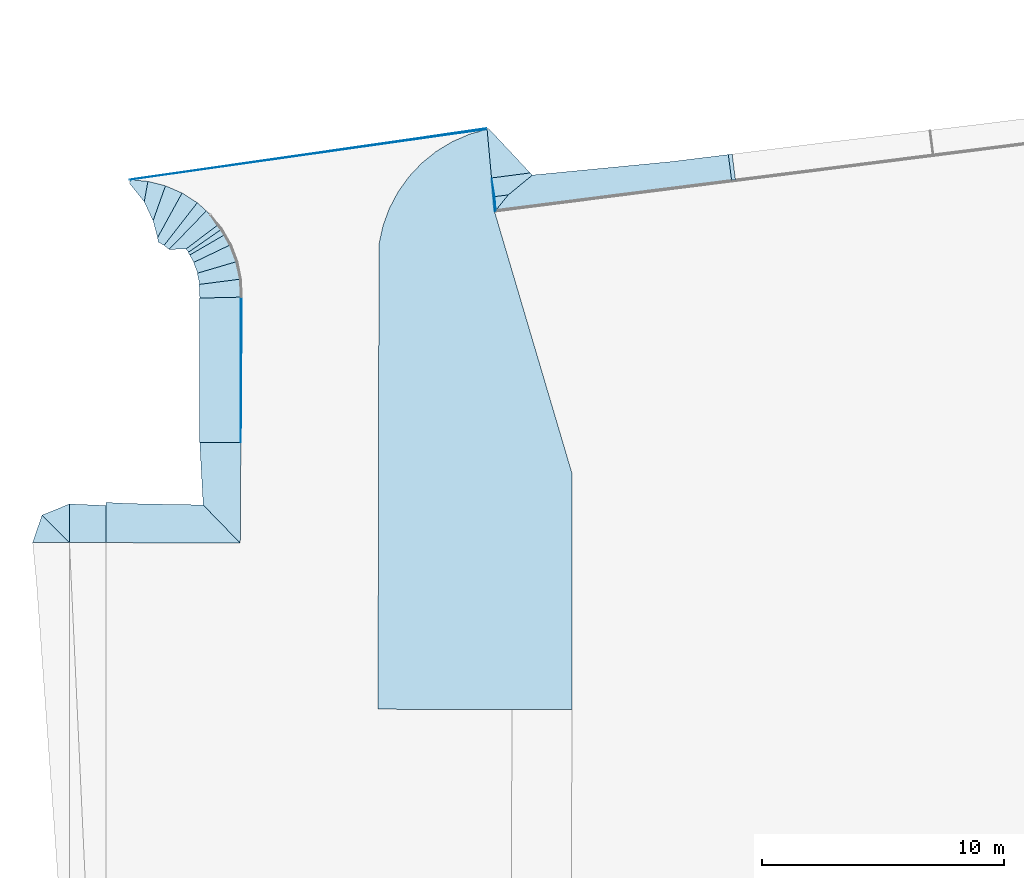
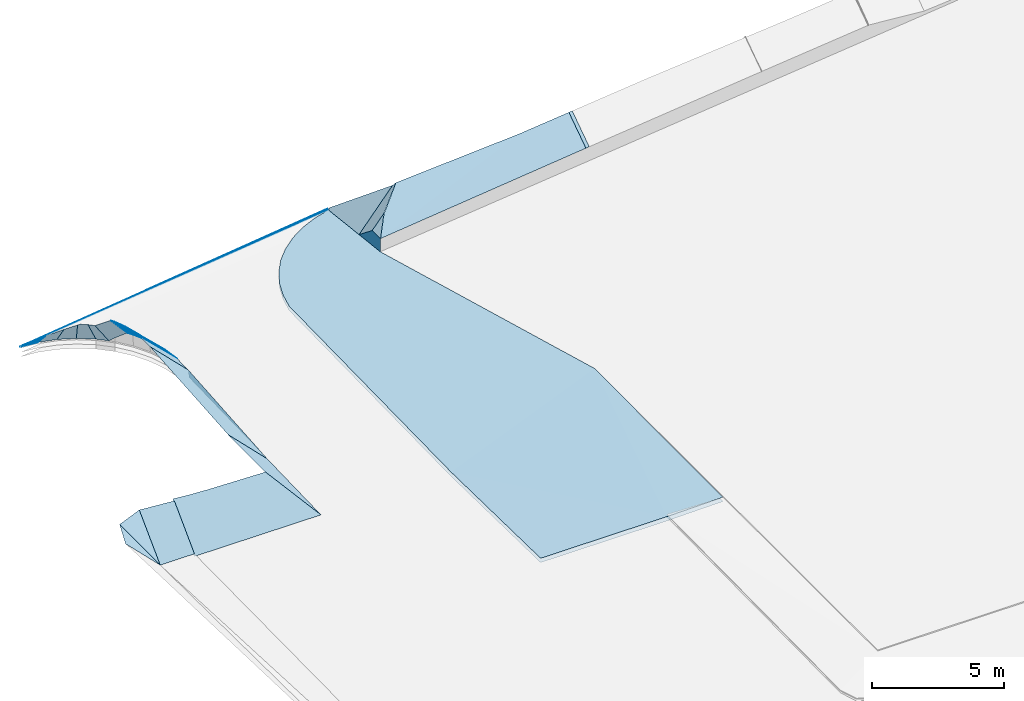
# One storey, part 4 of 14: 28 slabs.
"""IFC2X3 building model written with IfcOpenShell, lengths in metres."""

from ifc_helpers import new_model, si_unit, origin, origin_with_axes, place, context, subcontext, project, spatial, faceted_brep, element, save


model = new_model("IFC2X3")

# Units and contexts
context_of_model = context(None, 3, world=origin_with_axes())
sub_context = subcontext(context_of_model, None, None, "MODEL_VIEW")
ifc_project = project(units=[si_unit("LENGTHUNIT", "METRE"), si_unit("AREAUNIT", "SQUARE_METRE"), si_unit("VOLUMEUNIT", "CUBIC_METRE"), si_unit("PLANEANGLEUNIT", "RADIAN"), si_unit("MASSUNIT", "GRAM", prefix="KILO")])

# Site, building, storey
site_placement = place(None, origin_with_axes())
site = spatial("IfcSite", under=ifc_project, at=site_placement, Name="Site.1", CompositionType="ELEMENT")
building_placement = place(site_placement, origin())
building = spatial("IfcBuilding", under=site, at=building_placement, Name="Building.1", CompositionType="ELEMENT")
storey_placement = place(building_placement, origin())
storey = spatial("IfcBuildingStorey", under=building, at=storey_placement, Name="VRD", CompositionType="ELEMENT")

# Slabs
slab_1_placement = place(storey_placement, origin())
element("IfcSlab", 1, at=slab_1_placement, inside=storey, Name="PJ FINI n°29", PredefinedType="USERDEFINED", context=sub_context, shape_type="Brep", body=[
    faceted_brep([(-6.239175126, 29.71417276, 0.555202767), (-4.730061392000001, 31.165817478, 1.739085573), (1.013974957, 31.72217235, 1.661377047), (-5.726371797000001, 30.346971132, 1.120562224), (3.486191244, 30.9505954, 0.593329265), (3.351568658, 32.01097818, 1.662222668), (3.351568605, 32.010978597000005, 1.662223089)], [[[0, 1, 2]], [[0, 3, 1]], [[4, 0, 2]], [[2, 5, 4]], [[6, 5, 2]]]),
])
slab_2_placement = place(storey_placement, origin())
element("IfcSlab", 2, at=slab_2_placement, inside=storey, Name="PJ FINI n°8 (Terre Végétale)", PredefinedType="USERDEFINED", context=sub_context, shape_type="Brep", body=[
    faceted_brep([(-9.299906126, 31.655909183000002, -0.032359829), (-6.289270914, 29.651859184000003, 0.0), (-9.826892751, 31.095802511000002, -0.035887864), (-9.299906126, 31.655909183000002, -0.232359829), (-6.289270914, 29.651859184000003, -0.2), (-9.826892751, 31.095802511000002, -0.235887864), (-5.572275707, 9.122153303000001, -0.1), (-3.104534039, 18.884809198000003, 0.0), (-3.104534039, 9.114062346, -0.05), (-5.572275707, 9.122153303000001, -0.3), (-3.104534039, 18.884809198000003, -0.2), (-3.104534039, 9.114062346, -0.25), (-11.059491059, 28.315552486, -0.05), (-11.084177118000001, 15.972522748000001, -0.25), (-11.059491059, 28.315552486, -0.25), (-11.084177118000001, 15.972522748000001, -0.45), (-10.273664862, 30.469839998, -0.039415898), (-10.273664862, 30.469839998, -0.239415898), (-10.895627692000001, 29.066939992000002, -0.046471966), (-10.632085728, 29.789421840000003, -0.042943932), (-10.895627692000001, 29.066939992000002, -0.246471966), (-10.632085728, 29.789421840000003, -0.242943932), (-6.599849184, 33.055473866, -0.218247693), (-6.599849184, 33.055473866, -0.018247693), (-7.339867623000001, 32.846172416, -0.021775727), (-7.339867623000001, 32.846172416, -0.221775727), (-8.702302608, 32.139959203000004, -0.028831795), (-8.04496591, 32.539136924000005, -0.025303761), (-8.702302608, 32.139959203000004, -0.228831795), (-8.04496591, 32.539136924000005, -0.225303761), (-11.097854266, 9.133948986, -0.1), (-11.097854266, 9.133948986, -0.3)], [[[0, 1, 2]], [[3, 4, 5]], [[6, 7, 8]], [[9, 10, 11]], [[12, 7, 13]], [[14, 10, 15]], [[1, 16, 2]], [[4, 17, 5]], [[18, 19, 1]], [[20, 21, 4]], [[6, 13, 7]], [[9, 15, 10]], [[1, 4, 22, 23]], [[23, 1, 24]], [[22, 4, 25]], [[1, 26, 27]], [[4, 28, 29]], [[6, 30, 13]], [[9, 31, 15]], [[24, 1, 27]], [[25, 4, 29]], [[18, 1, 12]], [[20, 4, 14]], [[7, 12, 1]], [[10, 14, 4]], [[1, 19, 16]], [[4, 21, 17]], [[26, 1, 0]], [[28, 4, 3]]], orient=[[True], [False], [True], [False], [True], [False], [True], [False], [True], [False], [True], [False], [True], [True], [False], [True], [False], [True], [False], [True], [False], [True], [False], [True], [False], [True], [False], [True], [False]]),
])
slab_3_placement = place(storey_placement, origin())
element("IfcSlab", 3, at=slab_3_placement, inside=storey, Name="PJ FINI n°8", PredefinedType="USERDEFINED", context=sub_context, shape_type="Brep", body=[
    faceted_brep([(-9.299906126, 31.655909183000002, -0.032359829), (-6.289270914, 29.651859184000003, 0.0), (-9.826892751, 31.095802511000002, -0.035887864), (-5.572275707, 9.122153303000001, -0.1), (-3.104534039, 18.884809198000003, 0.0), (-3.104534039, 9.114062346, -0.05), (-11.059491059, 28.315552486, -0.05), (-11.084177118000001, 15.972522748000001, -0.25), (-10.273664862, 30.469839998, -0.039415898), (-10.895627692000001, 29.066939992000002, -0.046471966), (-10.632085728, 29.789421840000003, -0.042943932), (-6.599849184, 33.055473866, -0.018247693), (-7.339867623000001, 32.846172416, -0.021775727), (-8.702302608, 32.139959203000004, -0.028831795), (-8.04496591, 32.539136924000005, -0.025303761), (-11.097854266, 9.133948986, -0.1)], [[[0, 1, 2]], [[3, 4, 5]], [[6, 4, 7]], [[1, 8, 2]], [[9, 10, 1]], [[3, 7, 4]], [[11, 1, 12]], [[1, 13, 14]], [[3, 15, 7]], [[12, 1, 14]], [[9, 1, 6]], [[4, 6, 1]], [[1, 10, 8]], [[13, 1, 0]]]),
])
slab_4_placement = place(storey_placement, origin())
element("IfcSlab", 4, at=slab_4_placement, inside=storey, Name="PJ FINI n°12", PredefinedType="USERDEFINED", context=sub_context, shape_type="Brep", body=[
    faceted_brep([(-17.201949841, 28.282326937, 0.489823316), (-18.690035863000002, 27.568239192, 2.124079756), (-17.442758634, 28.695841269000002, 0.52487026), (-18.867500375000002, 27.865189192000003, 2.173319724)], [[[0, 1, 2]], [[1, 3, 2]]]),
])
slab_5_placement = place(storey_placement, origin())
element("IfcSlab", 5, at=slab_5_placement, inside=storey, Name="PJ FINI n°14", PredefinedType="USERDEFINED", context=sub_context, shape_type="Brep", body=[
    faceted_brep([(-18.452012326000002, 20.144525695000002, 1.530174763), (-18.309256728, 17.558672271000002, 1.319191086), (-18.452013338, 20.144525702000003, 1.530175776), (-16.753651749, 20.133170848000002, -0.168223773), (-16.781392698, 15.983917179, -0.250001), (-18.309256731, 17.558672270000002, 1.319191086)], [[[0, 1, 2]], [[3, 1, 0]], [[4, 5, 1]], [[4, 1, 3]]]),
])
slab_6_placement = place(storey_placement, origin())
element("IfcSlab", 6, at=slab_6_placement, inside=storey, Name="PJ FINI n°109", PredefinedType="USERDEFINED", context=sub_context, shape_type="Brep", body=[
    faceted_brep([(-17.719913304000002, 29.097642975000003, 0.564501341), (-19.02017323, 28.114033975, 2.197928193), (-18.000904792, 29.502155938, 0.20435422), (-19.713567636, 28.101101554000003, 2.213300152), (-18.177652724, 29.690961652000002, 0.003255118), (-18.010362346, 29.516132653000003, 0.189957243)], [[[0, 1, 2]], [[3, 4, 1]], [[5, 2, 4]], [[1, 4, 2]]]),
])
slab_7_placement = place(storey_placement, origin())
element("IfcSlab", 7, at=slab_7_placement, inside=storey, Name="PJ FINI n°22", PredefinedType="USERDEFINED", context=sub_context, shape_type="Brep", body=[
    faceted_brep([(-6.599849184, 33.055473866, -0.018248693), (-21.330737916, 30.977234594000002, 0.056122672), (-6.605372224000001, 33.094505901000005, 0.021172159), (-21.329879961, 30.971171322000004, 0.049999)], [[[0, 1, 2]], [[0, 3, 1]]]),
])
slab_8_placement = place(storey_placement, origin())
element("IfcSlab", 8, at=slab_8_placement, inside=storey, Name="PJ FINI n°23", PredefinedType="USERDEFINED", context=sub_context, shape_type="Brep", body=[
    faceted_brep([(-17.442758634, 28.695841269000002, 0.52487026), (-18.913888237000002, 27.985249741, 2.163357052), (-17.572974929, 28.918931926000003, 0.546382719), (-18.867500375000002, 27.865189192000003, 2.173223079), (-18.867582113, 27.865141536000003, 2.173317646), (-18.930963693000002, 27.973360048, 2.183947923)], [[[0, 1, 2]], [[0, 3, 1]], [[3, 4, 5]], [[5, 1, 3]]]),
])
slab_9_placement = place(storey_placement, origin())
element("IfcSlab", 9, at=slab_9_placement, inside=storey, Name="PJ FINI n°24", PredefinedType="USERDEFINED", context=sub_context, shape_type="Brep", body=[
    faceted_brep([(-6.235057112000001, 32.763206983, 0.320206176), (-6.599849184, 33.055473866, -0.018248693), (-6.502198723, 33.048303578, 0.078431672), (-4.824359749, 31.254591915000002, 1.596681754), (-6.416564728, 31.046866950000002, -0.007480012), (-6.519466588, 33.06280874, 0.062467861)], [[[0, 1, 2]], [[3, 4, 0]], [[2, 1, 5]], [[4, 1, 0]]]),
])
slab_10_placement = place(storey_placement, origin())
element("IfcSlab", 10, at=slab_10_placement, inside=storey, Name="PJ FINI n°110", PredefinedType="USERDEFINED", context=sub_context, shape_type="Brep", body=[
    faceted_brep([(-5.726371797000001, 30.346971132, 1.166103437), (-4.824359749, 31.254591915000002, 1.596681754), (-4.730061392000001, 31.165817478, 1.739085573), (-6.416564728, 31.046866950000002, -0.007480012), (-6.28554336, 30.276499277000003, 0.60142389)], [[[0, 1, 2]], [[0, 3, 1]], [[3, 0, 4]]]),
])
slab_11_placement = place(storey_placement, origin())
element("IfcSlab", 11, at=slab_11_placement, inside=storey, Name="PJ FINI n°26", PredefinedType="USERDEFINED", context=sub_context, shape_type="Brep", body=[
    faceted_brep([(-19.180673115, 30.427025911, 0.019999), (-20.189973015, 28.587518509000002, 2.111659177), (-20.376481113, 29.283453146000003, 1.55297388), (-19.864788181, 30.722955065, 0.029999), (-20.189973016, 28.587518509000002, 2.111659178)], [[[0, 1, 2]], [[3, 0, 2]], [[2, 1, 4]]]),
])
slab_12_placement = place(storey_placement, origin())
element("IfcSlab", 12, at=slab_12_placement, inside=storey, Name="PJ FINI n°32", PredefinedType="USERDEFINED", context=sub_context, shape_type="Brep", body=[
    faceted_brep([(-16.74991117, 26.131061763, 0.313574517), (-16.753651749, 20.133170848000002, -0.168222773), (-18.451784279, 25.343823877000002, 1.950836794), (-18.454368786, 26.091366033, 2.013934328), (-18.447760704, 26.091519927, 2.007342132), (-18.452012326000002, 20.144525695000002, 1.530174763)], [[[0, 1, 2]], [[2, 3, 4]], [[2, 4, 0]], [[1, 5, 2]]]),
])
slab_13_placement = place(storey_placement, origin())
element("IfcSlab", 13, at=slab_13_placement, inside=storey, Name="PJ FINI n°39", PredefinedType="USERDEFINED", context=sub_context, shape_type="Brep", body=[
    faceted_brep([(-21.329879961, 30.971171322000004, 0.049999), (-21.343513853, 30.816073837, 0.205694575), (-21.343513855, 30.816073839, 0.205694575), (-20.587365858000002, 30.905900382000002, 0.039999), (-20.741846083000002, 30.062910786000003, 0.894351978)], [[[0, 1, 2]], [[0, 3, 1]], [[4, 1, 3]]]),
])
slab_14_placement = place(storey_placement, origin())
element("IfcSlab", 14, at=slab_14_placement, inside=storey, Name="PJ FINI n°43", PredefinedType="USERDEFINED", context=sub_context, shape_type="Brep", body=[
    faceted_brep([(-18.913888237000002, 27.985249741, 2.163357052), (-19.02017323, 28.114033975, 2.197928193), (-17.719913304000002, 29.097642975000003, 0.564501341), (-17.572974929, 28.918931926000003, 0.546382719)], [[[0, 1, 2]], [[0, 2, 3]]]),
])
slab_15_placement = place(storey_placement, origin())
element("IfcSlab", 15, at=slab_15_placement, inside=storey, Name="PJ FINI n°47", PredefinedType="USERDEFINED", context=sub_context, shape_type="Brep", body=[
    faceted_brep([(-18.534569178, 27.121638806, 2.081634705), (-18.690035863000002, 27.568239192, 2.124079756), (-16.936952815, 27.593985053, 0.432515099), (-18.70796173, 27.559637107, 2.14376643), (-17.201949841, 28.282326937, 0.489823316)], [[[0, 1, 2]], [[0, 3, 1]], [[2, 1, 4]]]),
])
slab_16_placement = place(storey_placement, origin())
element("IfcSlab", 16, at=slab_16_placement, inside=storey, Name="PJ FINI n°53", PredefinedType="USERDEFINED", context=sub_context, shape_type="Brep", body=[
    faceted_brep([(-23.824534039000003, 16.004062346, -0.130001), (-24.956078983, 17.135607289, 1.470245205), (-23.824534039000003, 17.598729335, 1.464665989)], [[[0, 1, 2]]]),
])
slab_17_placement = place(storey_placement, origin())
element("IfcSlab", 17, at=slab_17_placement, inside=storey, Name="PJ FINI n°55", PredefinedType="USERDEFINED", context=sub_context, shape_type="Brep", body=[
    faceted_brep([(-23.824534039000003, 16.004062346, -0.130001), (-25.345557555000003, 16.004062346, 1.391022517), (-24.956078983, 17.135607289, 1.470245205)], [[[0, 1, 2]]]),
])
slab_18_placement = place(storey_placement, origin())
element("IfcSlab", 18, at=slab_18_placement, inside=storey, Name="PJ FINI n°59", PredefinedType="USERDEFINED", context=sub_context, shape_type="Brep", body=[
    faceted_brep([(3.351568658, 32.01097818, 1.662222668), (3.511115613, 32.030986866, 1.662071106), (3.486191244, 30.9505954, 0.593329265), (3.645543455, 30.97079798, 0.593393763)], [[[0, 1, 2]], [[3, 2, 1]]]),
])
slab_19_placement = place(storey_placement, origin())
element("IfcSlab", 19, at=slab_19_placement, inside=storey, Name="PJ FINI n°68", PredefinedType="USERDEFINED", context=sub_context, shape_type="Brep", body=[
    faceted_brep([(-6.239175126, 29.71417276, 0.555202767), (-6.28554336, 30.276499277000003, 0.60142389), (-5.726371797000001, 30.346971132, 1.166103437)], [[[0, 1, 2]]]),
])
slab_20_placement = place(storey_placement, origin())
element("IfcSlab", 20, at=slab_20_placement, inside=storey, Name="PJ FINI n°70", PredefinedType="USERDEFINED", context=sub_context, shape_type="Brep", body=[
    faceted_brep([(-22.324534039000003, 16.004062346, -0.130001), (-23.824534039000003, 16.004062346, -0.130001), (-22.656441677, 17.548906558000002, 1.41484321), (-22.321755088, 17.533379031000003, 1.399315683), (-23.824534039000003, 17.598729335, 1.464665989)], [[[0, 1, 2]], [[2, 3, 0]], [[2, 1, 4]]]),
])
slab_21_placement = place(storey_placement, origin())
element("IfcSlab", 21, at=slab_21_placement, inside=storey, Name="PJ FINI n°73", PredefinedType="USERDEFINED", context=sub_context, shape_type="Brep", body=[
    faceted_brep([(-6.289270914, 29.651859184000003, -1e-06), (-6.416564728, 31.046866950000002, -0.007480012), (-6.28554336, 30.276499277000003, 0.60142389), (-6.239175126, 29.71417276, 0.555202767)], [[[0, 1, 2]], [[0, 2, 3]]]),
])
slab_22_placement = place(storey_placement, origin())
element("IfcSlab", 22, at=slab_22_placement, inside=storey, Name="PJ FINI n°74", PredefinedType="USERDEFINED", context=sub_context, shape_type="Brep", body=[
    faceted_brep([(-18.455092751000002, 26.657642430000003, 2.040024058), (-18.554968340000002, 27.115607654, 2.102691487), (-18.534569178, 27.121638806, 2.081634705), (-16.784878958, 26.871449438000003, 0.373317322), (-16.936952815, 27.593985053, 0.432515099)], [[[0, 1, 2]], [[0, 2, 3]], [[3, 2, 4]]]),
])
slab_23_placement = place(storey_placement, origin())
element("IfcSlab", 23, at=slab_23_placement, inside=storey, Name="PJ FINI n°77", PredefinedType="USERDEFINED", context=sub_context, shape_type="Brep", body=[
    faceted_brep([(-16.713547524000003, 26.131616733, -0.050001), (-16.753651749, 20.133170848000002, -0.168222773), (-16.74991117, 26.131061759, 0.313574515), (-16.74991117, 26.131061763, 0.313574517)], [[[0, 1, 2]], [[1, 3, 2]]]),
])
slab_24_placement = place(storey_placement, origin())
element("IfcSlab", 24, at=slab_24_placement, inside=storey, Name="PJ FINI n°78", PredefinedType="USERDEFINED", context=sub_context, shape_type="Brep", body=[
    faceted_brep([(-22.324534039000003, 16.004062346, -0.250001), (-22.321755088, 17.533379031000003, 1.279315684), (-21.544025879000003, 17.624566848, 1.373329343), (-18.309256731, 17.558672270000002, 1.319191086), (-16.781392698, 15.983917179, -0.250001), (-22.321518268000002, 17.663707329, 1.409643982), (-20.782293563, 17.601793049, 1.353324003)], [[[0, 1, 2]], [[0, 3, 4]], [[5, 2, 1]], [[0, 6, 3]], [[0, 2, 6]]]),
])
slab_25_placement = place(storey_placement, origin())
element("IfcSlab", 25, at=slab_25_placement, inside=storey, Name="PJ FINI n°90", PredefinedType="USERDEFINED", context=sub_context, shape_type="Brep", body=[
    faceted_brep([(-20.376481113, 29.283453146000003, 1.55297388), (-20.741846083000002, 30.062910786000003, 0.894351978), (-19.864788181, 30.722955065, 0.029999), (-20.587365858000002, 30.905900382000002, 0.039999)], [[[0, 1, 2]], [[2, 1, 3]]]),
])
slab_26_placement = place(storey_placement, origin())
element("IfcSlab", 26, at=slab_26_placement, inside=storey, Name="PJ FINI n°91", PredefinedType="USERDEFINED", context=sub_context, shape_type="Brep", body=[
    faceted_brep([(-18.447760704, 26.091519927, 2.007342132), (-18.477102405, 26.654824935, 2.061987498), (-18.455092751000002, 26.657642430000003, 2.040024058), (-16.74991117, 26.131061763, 0.313574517), (-16.784878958, 26.871449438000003, 0.373317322)], [[[0, 1, 2]], [[3, 2, 4]], [[3, 0, 2]]]),
])
slab_27_placement = place(storey_placement, origin())
element("IfcSlab", 27, at=slab_27_placement, inside=storey, Name="PJ FINI n°94", PredefinedType="USERDEFINED", context=sub_context, shape_type="Brep", body=[
    faceted_brep([(-20.189973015, 28.587518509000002, 2.111659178), (-18.552560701, 30.025700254, 0.009999), (-19.92309575, 28.267504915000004, 2.232306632), (-20.16896128, 28.408105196, 2.25), (-19.180673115, 30.427025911, 0.019999)], [[[0, 1, 2]], [[0, 2, 3]], [[0, 4, 1]]]),
])
slab_28_placement = place(storey_placement, origin())
element("IfcSlab", 28, at=slab_28_placement, inside=storey, Name="PJ FINI n°97", PredefinedType="USERDEFINED", context=sub_context, shape_type="Brep", body=[
    faceted_brep([(-18.552560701, 30.025700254, 0.009999), (-19.713567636, 28.101101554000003, 2.213300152), (-19.92309575, 28.267504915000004, 2.232306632), (-18.177652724, 29.690961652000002, 0.003255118), (-19.923095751, 28.267504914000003, 2.232306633)], [[[0, 1, 2]], [[3, 1, 0]], [[2, 1, 4]]]),
])

save(model, "model.ifc")
